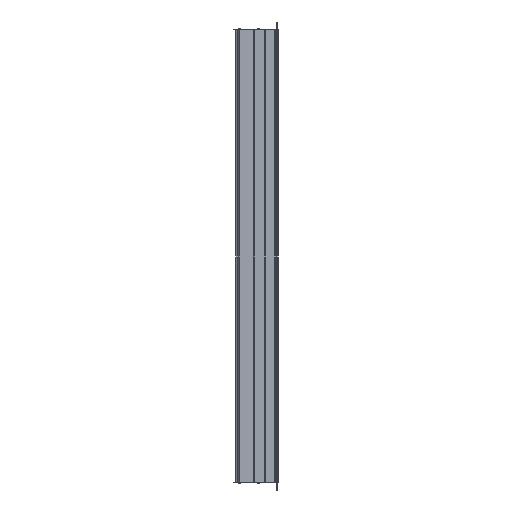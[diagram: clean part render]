
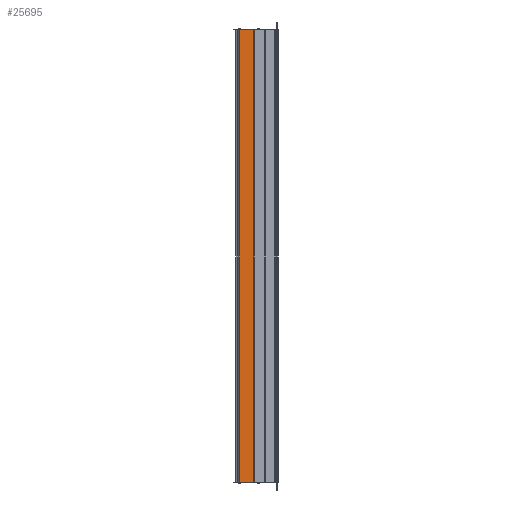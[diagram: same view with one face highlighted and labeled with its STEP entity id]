
A CAD part, left-side view. The second image highlights one B-rep face of the part: STEP entity #25695.
In plain terms, the highlighted planar face has unit normal (-1, 0, 0).
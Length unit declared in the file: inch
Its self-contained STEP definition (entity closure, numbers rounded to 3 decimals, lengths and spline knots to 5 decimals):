
#5535 = CARTESIAN_POINT ( 'NONE',  ( -1.25984, 0.36417, -48. ) ) ;
#5708 = ORIENTED_EDGE ( 'NONE', *, *, #31903, .T. ) ;
#11473 = DIRECTION ( 'NONE',  ( 0., -1., 0. ) ) ;
#11619 = LINE ( 'NONE', #29766, #23465 ) ;
#13614 = DIRECTION ( 'NONE',  ( 0., 0., 1. ) ) ;
#14843 = DIRECTION ( 'NONE',  ( -1., 0., 0. ) ) ;
#18438 = CARTESIAN_POINT ( 'NONE',  ( -1.25984, -1.07475, -48. ) ) ;
#19621 = FACE_OUTER_BOUND ( 'NONE', #40989, .T. ) ;
#20907 = ORIENTED_EDGE ( 'NONE', *, *, #37220, .F. ) ;
#21841 = ORIENTED_EDGE ( 'NONE', *, *, #35818, .F. ) ;
#22413 = CARTESIAN_POINT ( 'NONE',  ( -1.25984, 0.36417, 0. ) ) ;
#23465 = VECTOR ( 'NONE', #13614, 39.37008 ) ;
#23919 = AXIS2_PLACEMENT_3D ( 'NONE', #18438, #14843, #27660 ) ;
#25695 = ADVANCED_FACE ( 'NONE', ( #19621 ), #33000, .T. ) ;
#26704 = CARTESIAN_POINT ( 'NONE',  ( -1.25984, -1.07475, 0. ) ) ;
#26877 = VERTEX_POINT ( 'NONE', #26704 ) ;
#27660 = DIRECTION ( 'NONE',  ( 0., 0., 1. ) ) ;
#28164 = LINE ( 'NONE', #5535, #57740 ) ;
#28652 = CARTESIAN_POINT ( 'NONE',  ( -1.25984, 0.36417, -48. ) ) ;
#29766 = CARTESIAN_POINT ( 'NONE',  ( -1.25984, -1.07475, -48. ) ) ;
#29884 = DIRECTION ( 'NONE',  ( 0., -1., 0. ) ) ;
#30482 = CARTESIAN_POINT ( 'NONE',  ( -1.25984, -1.07475, -48. ) ) ;
#30933 = VERTEX_POINT ( 'NONE', #55318 ) ;
#31903 = EDGE_CURVE ( 'NONE', #30933, #26877, #11619, .T. ) ;
#33000 = PLANE ( 'NONE',  #23919 ) ;
#34411 = LINE ( 'NONE', #39448, #47389 ) ;
#35818 = EDGE_CURVE ( 'NONE', #51597, #49682, #28164, .T. ) ;
#37220 = EDGE_CURVE ( 'NONE', #49682, #26877, #34411, .T. ) ;
#39431 = LINE ( 'NONE', #30482, #52892 ) ;
#39448 = CARTESIAN_POINT ( 'NONE',  ( -1.25984, -1.07475, 0. ) ) ;
#40989 = EDGE_LOOP ( 'NONE', ( #20907, #21841, #43729, #5708 ) ) ;
#42167 = DIRECTION ( 'NONE',  ( 0., 0., 1. ) ) ;
#43729 = ORIENTED_EDGE ( 'NONE', *, *, #46289, .T. ) ;
#46289 = EDGE_CURVE ( 'NONE', #51597, #30933, #39431, .T. ) ;
#47389 = VECTOR ( 'NONE', #11473, 39.37008 ) ;
#49682 = VERTEX_POINT ( 'NONE', #22413 ) ;
#51597 = VERTEX_POINT ( 'NONE', #28652 ) ;
#52892 = VECTOR ( 'NONE', #29884, 39.37008 ) ;
#55318 = CARTESIAN_POINT ( 'NONE',  ( -1.25984, -1.07475, -48. ) ) ;
#57740 = VECTOR ( 'NONE', #42167, 39.37008 ) ;
